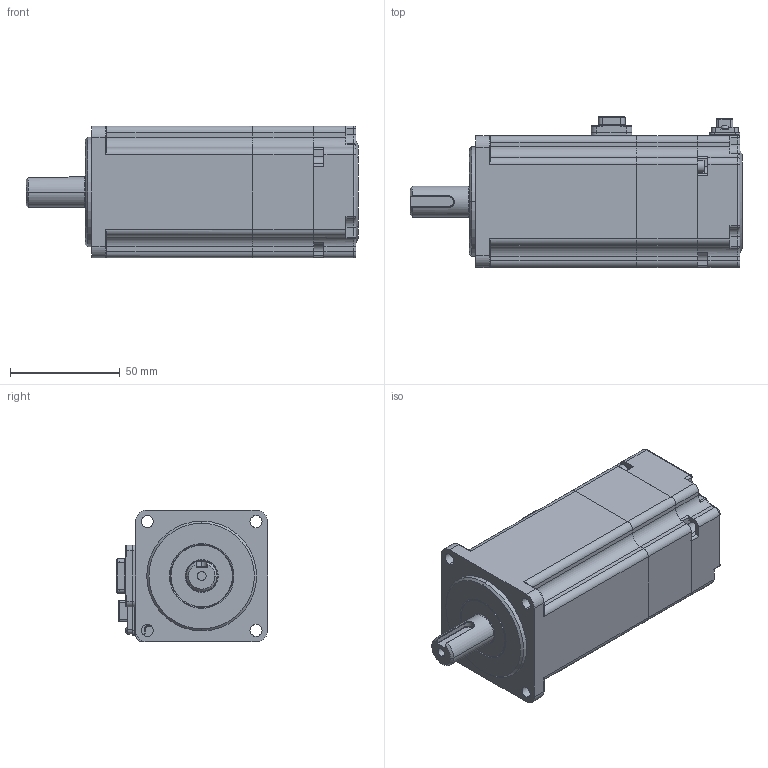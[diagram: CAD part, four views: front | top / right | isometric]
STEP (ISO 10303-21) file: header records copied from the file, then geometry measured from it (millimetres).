
FILE_DESCRIPTION(('FreeCAD Model'),'2;1');
FILE_NAME('Open CASCADE Shape Model','2025-03-17T14:01:42',('Author'),( ''),'Open CASCADE STEP processor 7.6','FreeCAD','Unknown');
FILE_SCHEMA(('AUTOMOTIVE_DESIGN { 1 0 10303 214 1 1 1 1 }'));
Length unit declared in the file: millimetre
Products named in the file (20): PSM6S-60CS30BZ3-20P4; PSM6S-60CS30BZ3-20P005; PSM6S-60CS30BZ3-20P006; PSM6S-60CS30BZ3-20P007; PSM6S-60CS30BZ3-20P008; PSM6S-60CS30BZ3-20P009; PSM6S-60CS30BZ3-20P010; PSM6S-60CS30BZ3-20P011; PSM6S-60CS30BZ3-20P012; PSM6S-60CS30BZ3-20P013; PSM6S-60CS30BZ3-20P014; PSM6S-60CS30BZ3-20P015; PSM6S-60CS30BZ3-20P016; PSM6S-60CS30BZ3-20P017; PSM6S-60CS30BZ3-20P018; PSM6S-60CS30BZ3-20P019; PSM6S-60CS30BZ3-20P020; PSM6S-60CS30BZ3-20P021; PSM6S-60CS30BZ3-20P022; PSM6S-60CS30BZ3-20P023
Assembly tree (19 placements, depth 2):
  PSM6S-60CS30BZ3-20P4
    PSM6S-60CS30BZ3-20P005
    PSM6S-60CS30BZ3-20P006
    PSM6S-60CS30BZ3-20P007
    PSM6S-60CS30BZ3-20P008
    PSM6S-60CS30BZ3-20P009
    PSM6S-60CS30BZ3-20P010
    PSM6S-60CS30BZ3-20P011
    PSM6S-60CS30BZ3-20P012
    PSM6S-60CS30BZ3-20P013
    PSM6S-60CS30BZ3-20P014
    PSM6S-60CS30BZ3-20P015
    PSM6S-60CS30BZ3-20P016
    PSM6S-60CS30BZ3-20P017
    PSM6S-60CS30BZ3-20P018
    PSM6S-60CS30BZ3-20P019
    PSM6S-60CS30BZ3-20P020
    PSM6S-60CS30BZ3-20P021
    PSM6S-60CS30BZ3-20P022
    PSM6S-60CS30BZ3-20P023
Bounding box: 151.15 x 68.8 x 60 mm (x, y, z)
Surface area: 42425.1 mm2 (no closed solid volume)
Topology: 0 solids, 19 shells, 635 faces, 2144 edges, 1504 vertices
Faces by surface type: plane 276, cylinder 244, torus 58, cone 23, bspline 22, sphere 8, revolution 4
Entity records: 24876 total; most frequent: CARTESIAN_POINT 5737, DIRECTION 4048, ORIENTED_EDGE 3492, EDGE_CURVE 2128, VERTEX_POINT 1504, AXIS2_PLACEMENT_3D 1365, LINE 1314, VECTOR 1314
